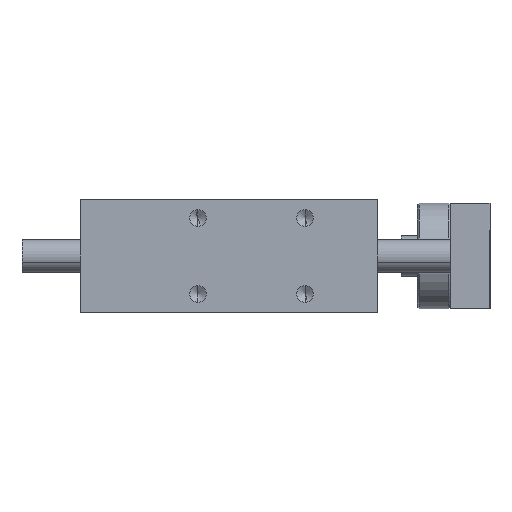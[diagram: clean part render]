
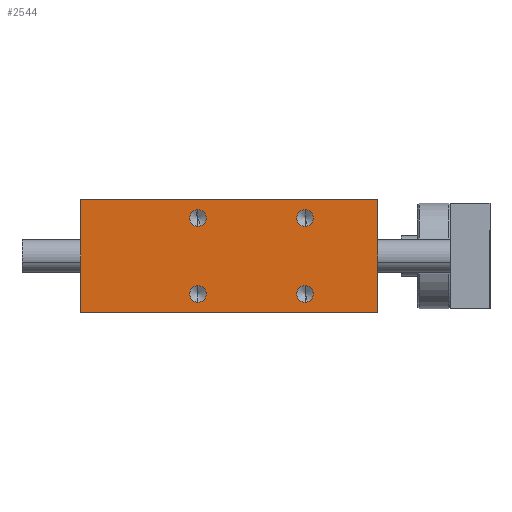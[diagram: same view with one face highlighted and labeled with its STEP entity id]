
A CAD part, left-side view. The second image highlights one B-rep face of the part: STEP entity #2544.
In plain terms, the highlighted planar face has unit normal (-1, 0, 0).
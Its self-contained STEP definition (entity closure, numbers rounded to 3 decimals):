
#65 = ORIENTED_EDGE ( 'NONE', *, *, #1904, .F. ) ;
#103 = EDGE_CURVE ( 'NONE', #1396, #236, #293, .T. ) ;
#107 = VERTEX_POINT ( 'NONE', #5592 ) ;
#154 = DIRECTION ( 'NONE',  ( -1., 0., 0. ) ) ;
#236 = VERTEX_POINT ( 'NONE', #2818 ) ;
#293 = LINE ( 'NONE', #3822, #3734 ) ;
#342 = CIRCLE ( 'NONE', #5764, 2.5 ) ;
#348 = DIRECTION ( 'NONE',  ( -1., 0., 0. ) ) ;
#377 = CARTESIAN_POINT ( 'NONE',  ( 0., 54.5, 5.5 ) ) ;
#397 = EDGE_CURVE ( 'NONE', #3729, #107, #5518, .T. ) ;
#427 = EDGE_CURVE ( 'NONE', #4928, #535, #3195, .T. ) ;
#428 = EDGE_LOOP ( 'NONE', ( #5279, #5586 ) ) ;
#499 = AXIS2_PLACEMENT_3D ( 'NONE', #2467, #5057, #1584 ) ;
#535 = VERTEX_POINT ( 'NONE', #907 ) ;
#622 = DIRECTION ( 'NONE',  ( 0., 0., 1. ) ) ;
#637 = DIRECTION ( 'NONE',  ( 1., 0., 0. ) ) ;
#663 = ORIENTED_EDGE ( 'NONE', *, *, #1449, .F. ) ;
#744 = DIRECTION ( 'NONE',  ( 0., 0., 1. ) ) ;
#774 = DIRECTION ( 'NONE',  ( -1., 0., 0. ) ) ;
#780 = EDGE_CURVE ( 'NONE', #1745, #2782, #342, .T. ) ;
#802 = CARTESIAN_POINT ( 'NONE',  ( 0., 0., 34. ) ) ;
#816 = LINE ( 'NONE', #2598, #2094 ) ;
#824 = CARTESIAN_POINT ( 'NONE',  ( 0., 22., 26. ) ) ;
#865 = CARTESIAN_POINT ( 'NONE',  ( 0., 22., 8. ) ) ;
#883 = DIRECTION ( 'NONE',  ( 0., 0., 1. ) ) ;
#907 = CARTESIAN_POINT ( 'NONE',  ( 0., 54.5, 8. ) ) ;
#970 = ORIENTED_EDGE ( 'NONE', *, *, #3551, .F. ) ;
#972 = CARTESIAN_POINT ( 'NONE',  ( 0., 22., 3. ) ) ;
#1029 = CIRCLE ( 'NONE', #3086, 2.5 ) ;
#1056 = FACE_BOUND ( 'NONE', #428, .T. ) ;
#1069 = CIRCLE ( 'NONE', #499, 2.5 ) ;
#1168 = ORIENTED_EDGE ( 'NONE', *, *, #4242, .F. ) ;
#1396 = VERTEX_POINT ( 'NONE', #2645 ) ;
#1449 = EDGE_CURVE ( 'NONE', #4515, #1946, #1029, .T. ) ;
#1517 = CARTESIAN_POINT ( 'NONE',  ( 0., 0., 34. ) ) ;
#1544 = CARTESIAN_POINT ( 'NONE',  ( 0., 0., 34. ) ) ;
#1579 = EDGE_CURVE ( 'NONE', #3067, #1396, #2348, .T. ) ;
#1584 = DIRECTION ( 'NONE',  ( 0., 0., 1. ) ) ;
#1745 = VERTEX_POINT ( 'NONE', #824 ) ;
#1763 = DIRECTION ( 'NONE',  ( 0., 0., -1. ) ) ;
#1904 = EDGE_CURVE ( 'NONE', #2782, #1745, #3642, .T. ) ;
#1907 = CIRCLE ( 'NONE', #5153, 2.5 ) ;
#1916 = CARTESIAN_POINT ( 'NONE',  ( 0., 22., 5.5 ) ) ;
#1946 = VERTEX_POINT ( 'NONE', #972 ) ;
#2094 = VECTOR ( 'NONE', #5222, 1000. ) ;
#2255 = DIRECTION ( 'NONE',  ( 0., 0., -1. ) ) ;
#2256 = AXIS2_PLACEMENT_3D ( 'NONE', #1517, #637, #3303 ) ;
#2323 = ORIENTED_EDGE ( 'NONE', *, *, #4320, .F. ) ;
#2348 = LINE ( 'NONE', #2713, #3184 ) ;
#2354 = CARTESIAN_POINT ( 'NONE',  ( 0., 22., 31. ) ) ;
#2467 = CARTESIAN_POINT ( 'NONE',  ( 0., 54.5, 28.5 ) ) ;
#2512 = VERTEX_POINT ( 'NONE', #1544 ) ;
#2544 = ADVANCED_FACE ( 'NONE', ( #3702, #5489, #3277, #1056, #2837 ), #4158, .F. ) ;
#2598 = CARTESIAN_POINT ( 'NONE',  ( 0., 0., 34. ) ) ;
#2645 = CARTESIAN_POINT ( 'NONE',  ( 0., 90., 0. ) ) ;
#2713 = CARTESIAN_POINT ( 'NONE',  ( 0., 90., 34. ) ) ;
#2754 = ORIENTED_EDGE ( 'NONE', *, *, #1579, .T. ) ;
#2782 = VERTEX_POINT ( 'NONE', #2354 ) ;
#2814 = AXIS2_PLACEMENT_3D ( 'NONE', #4054, #5349, #3600 ) ;
#2818 = CARTESIAN_POINT ( 'NONE',  ( 0., 0., 0. ) ) ;
#2837 = FACE_OUTER_BOUND ( 'NONE', #4790, .T. ) ;
#2853 = CARTESIAN_POINT ( 'NONE',  ( 0., 54.5, 5.5 ) ) ;
#3035 = LINE ( 'NONE', #802, #3754 ) ;
#3067 = VERTEX_POINT ( 'NONE', #3824 ) ;
#3086 = AXIS2_PLACEMENT_3D ( 'NONE', #3658, #5449, #4908 ) ;
#3120 = EDGE_LOOP ( 'NONE', ( #65, #5151 ) ) ;
#3184 = VECTOR ( 'NONE', #2255, 1000. ) ;
#3195 = CIRCLE ( 'NONE', #4383, 2.5 ) ;
#3277 = FACE_BOUND ( 'NONE', #5236, .T. ) ;
#3303 = DIRECTION ( 'NONE',  ( 0., 0., -1. ) ) ;
#3347 = DIRECTION ( 'NONE',  ( -1., 0., 0. ) ) ;
#3462 = AXIS2_PLACEMENT_3D ( 'NONE', #5245, #154, #4337 ) ;
#3551 = EDGE_CURVE ( 'NONE', #2512, #236, #3035, .T. ) ;
#3587 = AXIS2_PLACEMENT_3D ( 'NONE', #377, #348, #4719 ) ;
#3600 = DIRECTION ( 'NONE',  ( 0., 0., 1. ) ) ;
#3642 = CIRCLE ( 'NONE', #2814, 2.5 ) ;
#3658 = CARTESIAN_POINT ( 'NONE',  ( 0., 22., 5.5 ) ) ;
#3698 = DIRECTION ( 'NONE',  ( -1., 0., 0. ) ) ;
#3702 = FACE_BOUND ( 'NONE', #5572, .T. ) ;
#3729 = VERTEX_POINT ( 'NONE', #4444 ) ;
#3734 = VECTOR ( 'NONE', #3800, 1000. ) ;
#3754 = VECTOR ( 'NONE', #1763, 1000. ) ;
#3767 = CIRCLE ( 'NONE', #3587, 2.5 ) ;
#3800 = DIRECTION ( 'NONE',  ( 0., -1., 0. ) ) ;
#3804 = ORIENTED_EDGE ( 'NONE', *, *, #103, .T. ) ;
#3822 = CARTESIAN_POINT ( 'NONE',  ( 0., 0., 0. ) ) ;
#3824 = CARTESIAN_POINT ( 'NONE',  ( 0., 90., 34. ) ) ;
#3942 = CARTESIAN_POINT ( 'NONE',  ( 0., 54.5, 3. ) ) ;
#4054 = CARTESIAN_POINT ( 'NONE',  ( 0., 22., 28.5 ) ) ;
#4158 = PLANE ( 'NONE',  #2256 ) ;
#4242 = EDGE_CURVE ( 'NONE', #3067, #2512, #816, .T. ) ;
#4320 = EDGE_CURVE ( 'NONE', #1946, #4515, #1907, .T. ) ;
#4337 = DIRECTION ( 'NONE',  ( 0., 0., 1. ) ) ;
#4357 = ORIENTED_EDGE ( 'NONE', *, *, #427, .F. ) ;
#4383 = AXIS2_PLACEMENT_3D ( 'NONE', #2853, #3347, #622 ) ;
#4444 = CARTESIAN_POINT ( 'NONE',  ( 0., 54.5, 31. ) ) ;
#4515 = VERTEX_POINT ( 'NONE', #865 ) ;
#4709 = ORIENTED_EDGE ( 'NONE', *, *, #5324, .F. ) ;
#4719 = DIRECTION ( 'NONE',  ( 0., 0., 1. ) ) ;
#4790 = EDGE_LOOP ( 'NONE', ( #3804, #970, #1168, #2754 ) ) ;
#4811 = EDGE_CURVE ( 'NONE', #107, #3729, #1069, .T. ) ;
#4908 = DIRECTION ( 'NONE',  ( 0., 0., 1. ) ) ;
#4928 = VERTEX_POINT ( 'NONE', #3942 ) ;
#5057 = DIRECTION ( 'NONE',  ( -1., 0., 0. ) ) ;
#5151 = ORIENTED_EDGE ( 'NONE', *, *, #780, .F. ) ;
#5153 = AXIS2_PLACEMENT_3D ( 'NONE', #1916, #3698, #883 ) ;
#5185 = CARTESIAN_POINT ( 'NONE',  ( 0., 22., 28.5 ) ) ;
#5222 = DIRECTION ( 'NONE',  ( 0., -1., 0. ) ) ;
#5236 = EDGE_LOOP ( 'NONE', ( #4709, #4357 ) ) ;
#5245 = CARTESIAN_POINT ( 'NONE',  ( 0., 54.5, 28.5 ) ) ;
#5279 = ORIENTED_EDGE ( 'NONE', *, *, #397, .F. ) ;
#5324 = EDGE_CURVE ( 'NONE', #535, #4928, #3767, .T. ) ;
#5349 = DIRECTION ( 'NONE',  ( -1., 0., 0. ) ) ;
#5449 = DIRECTION ( 'NONE',  ( -1., 0., 0. ) ) ;
#5489 = FACE_BOUND ( 'NONE', #3120, .T. ) ;
#5518 = CIRCLE ( 'NONE', #3462, 2.5 ) ;
#5572 = EDGE_LOOP ( 'NONE', ( #663, #2323 ) ) ;
#5586 = ORIENTED_EDGE ( 'NONE', *, *, #4811, .F. ) ;
#5592 = CARTESIAN_POINT ( 'NONE',  ( 0., 54.5, 26. ) ) ;
#5764 = AXIS2_PLACEMENT_3D ( 'NONE', #5185, #774, #744 ) ;
